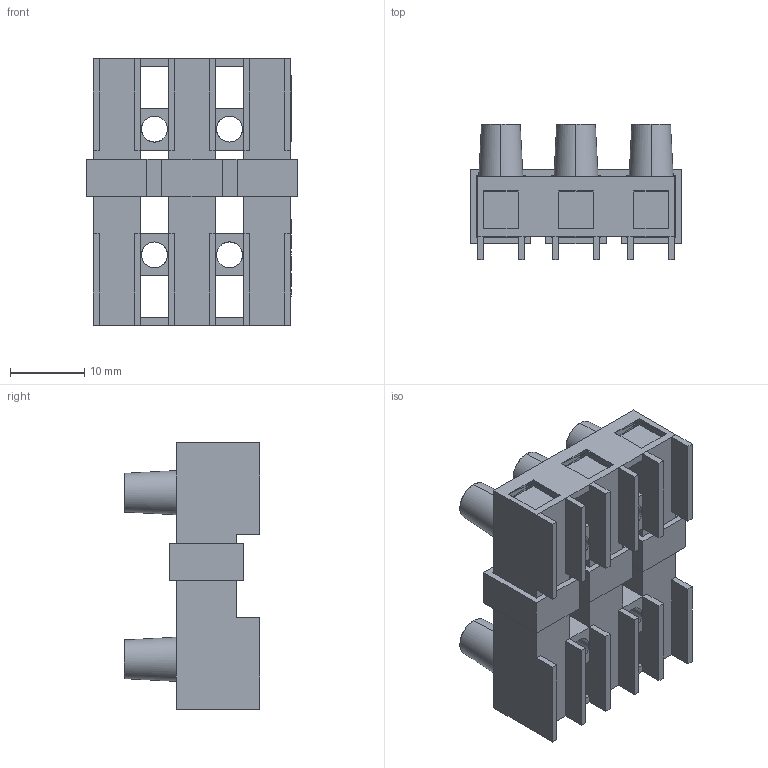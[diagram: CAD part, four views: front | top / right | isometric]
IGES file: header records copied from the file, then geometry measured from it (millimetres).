
Global section: file name: C:\Programme\core_technologie\in\007YR03Y07.igs; native system: CT CoreTechnologie 3D Evolution; preprocessor: 2006; author: assmuth; date: 100304.150840; units: millimetre
Bounding box: 28.4 x 18.2 x 35.8 mm (x, y, z)
Surface area: 7568.1 mm2 (no closed solid volume)
Topology: 0 solids, 0 shells, 377 faces, 1870 edges, 1846 vertices
Faces by surface type: bspline 377
